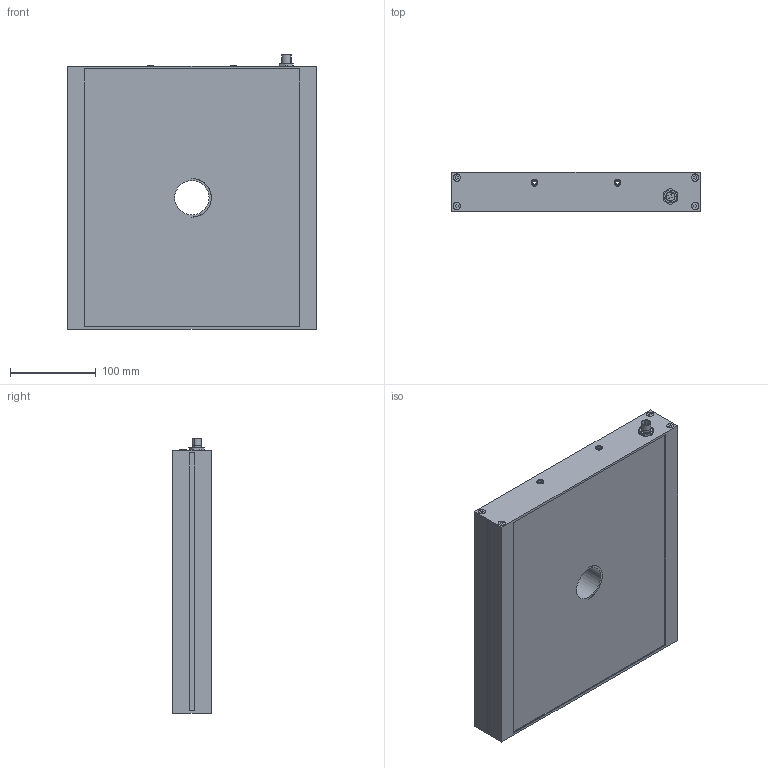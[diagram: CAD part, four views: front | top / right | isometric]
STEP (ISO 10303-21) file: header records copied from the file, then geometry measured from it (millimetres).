
FILE_DESCRIPTION (( 'STEP AP214' ), '1' );
FILE_NAME ('CD 300x250.STEP', '2012-08-13T07:22:42', ( ' ' ), ( '' ), 'SwSTEP 2.0', 'SolidWorks 2009', '' );
FILE_SCHEMA (( 'AUTOMOTIVE_DESIGN' ));
Length unit declared in the file: millimetre
Products named in the file (1): CD 300x250
Bounding box: 289.5 x 45 x 319.6 mm (x, y, z)
Volume: 897349 mm3; surface area: 558122.6 mm2
Topology: 1 solids, 3 shells, 443 faces, 1231 edges, 788 vertices
Faces by surface type: plane 269, cylinder 118, cone 44, sphere 8, torus 4
Entity records: 18945 total; most frequent: CARTESIAN_POINT 2463, ORIENTED_EDGE 2430, DIRECTION 2423, EDGE_CURVE 1215, VECTOR 879, LINE 879, VERTEX_POINT 780, AXIS2_PLACEMENT_3D 772
